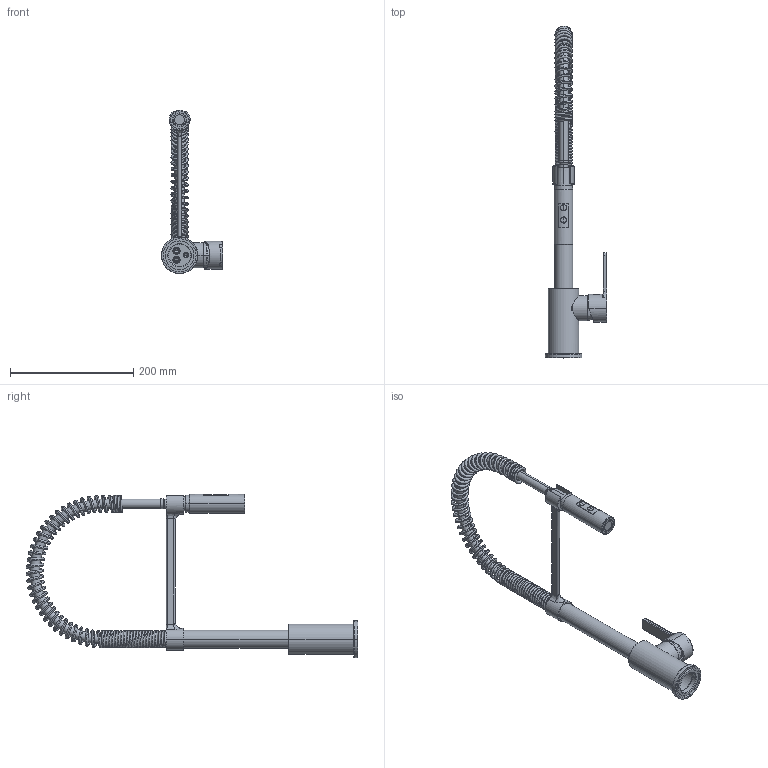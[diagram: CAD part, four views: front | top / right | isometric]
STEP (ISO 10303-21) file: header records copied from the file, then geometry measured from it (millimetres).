
FILE_DESCRIPTION(/* description */ (''),/* implementation_level */ '2;1');
FILE_NAME(/* name */ 'MID5CR.stp',/* time_stamp */ '2020-03-02T09:03:32+01:00',/* author */ (''),/* organization */ (''),/* preprocessor_version */ 'ST-DEVELOPER v16',/* originating_system */ 'SIEMENS PLM Software NX 11.0',/* authorisation */ '');
FILE_SCHEMA (('AUTOMOTIVE_DESIGN { 1 0 10303 214 3 1 1 1 }'));
Length unit declared in the file: millimetre
Products named in the file (1): Mart1D148004k3dq
Bounding box: 99.95 x 538.89 x 265.1 mm (x, y, z)
Volume: 509831.8 mm3; surface area: 230945.7 mm2
Topology: 2 solids, 3 shells, 1387 faces, 3417 edges, 2132 vertices
Faces by surface type: plane 681, cylinder 293, cone 140, bspline 123, torus 117, extrusion 23, sphere 10
Entity records: 68648 total; most frequent: CARTESIAN_POINT 36439, ORIENTED_EDGE 6794, DIRECTION 6460, EDGE_CURVE 3397, AXIS2_PLACEMENT_3D 2209, VERTEX_POINT 2132, VECTOR 2042, LINE 2019
